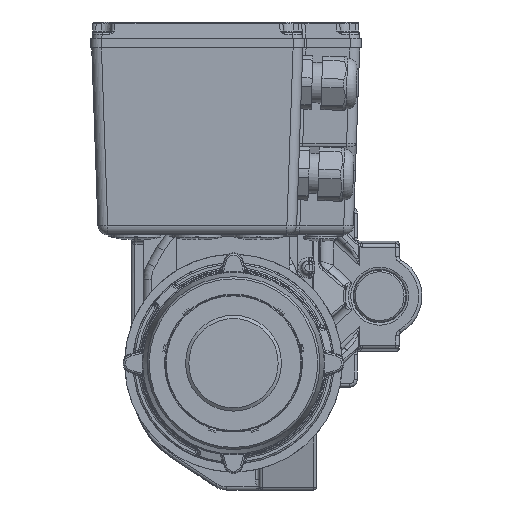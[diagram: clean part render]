
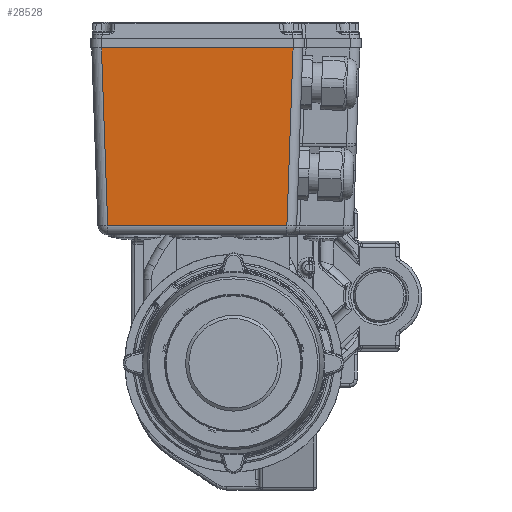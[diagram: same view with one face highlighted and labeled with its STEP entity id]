
A CAD part, left-side view. The second image highlights one B-rep face of the part: STEP entity #28528.
In plain terms, the highlighted planar face has unit normal (-0.999, 0, -0.035).
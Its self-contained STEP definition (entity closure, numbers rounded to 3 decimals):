
#3641=PLANE('',#31624);
#4802=LINE('',#65437,#6212);
#4872=LINE('',#65883,#6282);
#4878=LINE('',#66013,#6288);
#4879=LINE('',#66014,#6289);
#6212=VECTOR('',#38443,10.);
#6282=VECTOR('',#38653,10.);
#6288=VECTOR('',#38705,10.);
#6289=VECTOR('',#38706,10.);
#8492=FACE_OUTER_BOUND('',#10243,.T.);
#10243=EDGE_LOOP('',(#25626,#25627,#25628,#25629));
#14189=VERTEX_POINT('',#65435);
#14190=VERTEX_POINT('',#65436);
#14265=VERTEX_POINT('',#65879);
#14266=VERTEX_POINT('',#65881);
#17977=EDGE_CURVE('',#14189,#14190,#4802,.F.);
#18091=EDGE_CURVE('',#14266,#14265,#4872,.T.);
#18113=EDGE_CURVE('',#14189,#14266,#4878,.T.);
#18114=EDGE_CURVE('',#14265,#14190,#4879,.T.);
#25626=ORIENTED_EDGE('',*,*,#18091,.F.);
#25627=ORIENTED_EDGE('',*,*,#18113,.F.);
#25628=ORIENTED_EDGE('',*,*,#17977,.T.);
#25629=ORIENTED_EDGE('',*,*,#18114,.F.);
#28528=ADVANCED_FACE('',(#8492),#3641,.T.);
#31624=AXIS2_PLACEMENT_3D('',#66012,#38703,#38704);
#38443=DIRECTION('',(0.,-1.,0.));
#38653=DIRECTION('',(0.,1.,0.));
#38703=DIRECTION('center_axis',(-0.999,0.,
-0.035));
#38704=DIRECTION('ref_axis',(0.035,0.,-0.999));
#38705=DIRECTION('',(0.035,0.035,-0.999));
#38706=DIRECTION('',(-0.035,0.035,0.999));
#65435=CARTESIAN_POINT('',(-296.965,-44.677,152.769));
#65436=CARTESIAN_POINT('',(-296.965,73.261,152.769));
#65437=CARTESIAN_POINT('',(-296.965,35.292,152.769));
#65879=CARTESIAN_POINT('',(-293.151,69.447,43.56));
#65881=CARTESIAN_POINT('',(-293.151,-40.863,43.56));
#65883=CARTESIAN_POINT('',(-293.151,38.042,43.56));
#66012=CARTESIAN_POINT('Origin',(-297.,79.292,153.769));
#66013=CARTESIAN_POINT('',(-295.293,-43.005,104.9));
#66014=CARTESIAN_POINT('',(-296.846,73.142,149.362));
